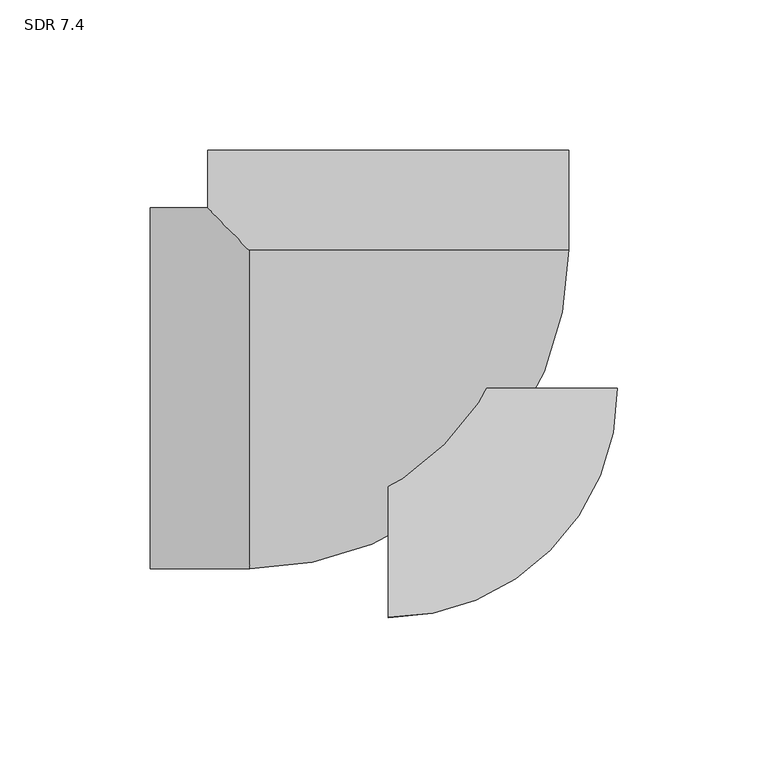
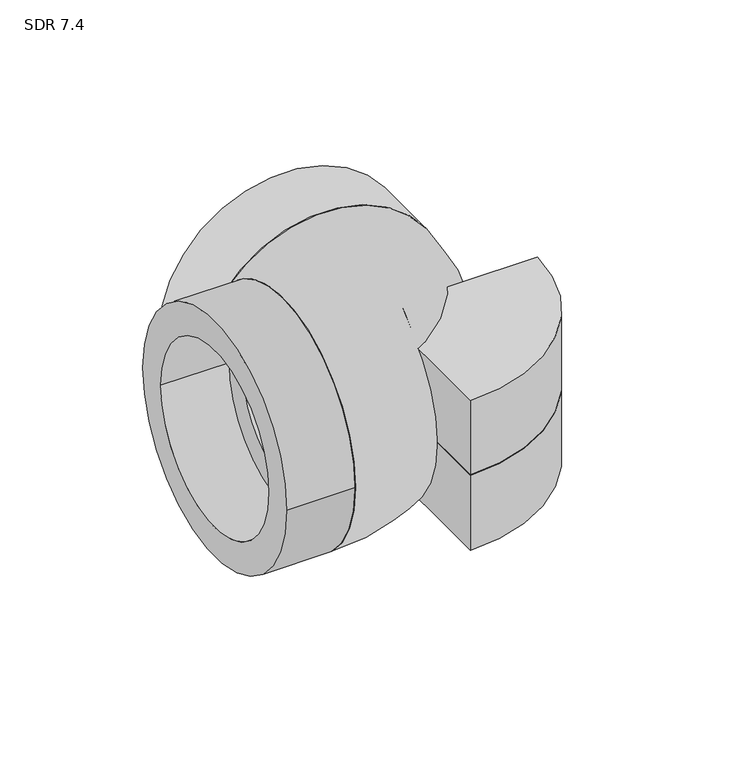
"""IFC4 building model written with IfcOpenShell, lengths in millimetres: pipe fitting geometry, Aquatherm - Elbow Socket : SDR 7.4."""

from ifc_helpers import new_model, si_unit, point, frame, origin, origin_with_axes, origin_2d, place, context, project, spatial, polyline, circle_curve, ellipse_curve, trimmed, segment, composite_curve, outline, extrude, source, transform, mapped, element, save
from ifc_brep_helpers import plane_surface, revolved_surface, advanced_brep


def sdr_7_4_47ab185f(model_context):
    return source(origin(), model_context, "Body", "SolidModel", [
        extrude(outline(composite_curve([segment(polyline([(0.0, -76.2), (0.0, 0.0), (76.2, 0.0)]), True, "CONTINUOUS"), segment(trimmed(circle_curve(origin_2d(), 76.2), [point((76.2, 0.0))], [point((0.0, -76.2))], False, "CARTESIAN"), True, "CONTINUOUS")], self_intersect=False)), frame((0.0, 0.0, -38.1), z_axis=(0.0, 0.0, 1.0), x_axis=(1.0, 0.0, 0.0)), (0.0, 0.0, 1.0), 38.1),
        extrude(outline(composite_curve([segment(trimmed(circle_curve(origin_2d(), 76.2), [point((76.2, 0.0))], [point((0.0, -76.2))], False, "CARTESIAN"), True, "CONTINUOUS"), segment(polyline([(0.0, -76.2), (0.0, 0.0), (76.2, 0.0)]), True, "CONTINUOUS")], self_intersect=False)), origin_with_axes(), (0.0, 0.0, 1.0), 38.1),
        extrude(outline(composite_curve([segment(trimmed(circle_curve(origin_2d(), 59.944), [point((0.0, 59.944))], [point((0.0, -59.944))], False, "CARTESIAN"), True, "CONTINUOUS"), segment(trimmed(circle_curve(origin_2d(), 59.944), [point((0.0, -59.944))], [point((0.0, 59.944))], False, "CARTESIAN"), True, "CONTINUOUS")], self_intersect=False), holes=[composite_curve([segment(trimmed(circle_curve(origin_2d(), 44.958), [point((0.0, 44.958))], [point((0.0, -44.958))], True, "CARTESIAN"), True, "CONTINUOUS"), segment(trimmed(circle_curve(origin_2d(), 44.958), [point((0.0, -44.958))], [point((0.0, 44.958))], True, "CARTESIAN"), True, "CONTINUOUS")], self_intersect=False)]), frame((0.0, 45.974, 0.0), z_axis=(0.0, 1.0, 0.0), x_axis=(0.0, 0.0, 1.0)), (0.0, 0.0, 1.0), 33.02),
        advanced_brep(
        [(-45.974, 45.974, -38.4665369), (-45.974, 45.974, 38.4665369), (-45.974, -32.4696667, 0.0), (-45.974, 32.4696667, 0.0), (32.4696667, 45.974, 0.0), (-32.4696667, 45.974, 0.0)],
        [
            (0, 1, circle_curve(frame((-45.974, 0.0, 0.0), z_axis=(-1.0, 0.0, 0.0), x_axis=(0.0, 1.0, 0.0)), 59.944)),
            (1, 0),
            (2, 3, circle_curve(frame((-45.974, 0.0, 0.0), z_axis=(1.0, 0.0, 0.0), x_axis=(0.0, 1.0, 0.0)), 32.4696667)),
            (3, 2, circle_curve(frame((-45.974, 0.0, 0.0), z_axis=(1.0, 0.0, 0.0), x_axis=(0.0, 1.0, 0.0)), 32.4696667)),
            (1, 0, circle_curve(frame((0.0, 45.974, 0.0), z_axis=(0.0, 1.0, 0.0), x_axis=(-1.0, 0.0, 0.0)), 59.944)),
            (4, 5, circle_curve(frame((0.0, 45.974, 0.0), z_axis=(0.0, -1.0, 0.0), x_axis=(-1.0, 0.0, 0.0)), 32.4696667)),
            (5, 4, circle_curve(frame((0.0, 45.974, 0.0), z_axis=(0.0, -1.0, 0.0), x_axis=(-1.0, 0.0, 0.0)), 32.4696667)),
            (5, 3, circle_curve(frame((-45.974, 45.974, 0.0), z_axis=(0.0, 0.0, -1.0), x_axis=(0.0, -1.0, 0.0)), 13.5043333)),
            (2, 4, circle_curve(frame((-45.974, 45.974, 0.0), z_axis=(0.0, 0.0, 1.0), x_axis=(0.0, -1.0, 0.0)), 78.4436667)),
        ],
        [
            plane_surface(frame((-45.974, 45.974, 95.6165369), z_axis=(-1.0, 0.0, 0.0), x_axis=(0.0, -1.0, 0.0))),
            plane_surface(frame((-45.974, 45.974, 95.6165369), z_axis=(0.0, 1.0, 0.0), x_axis=(1.0, 0.0, 0.0))),
            revolved_surface(trimmed(ellipse_curve(frame((-45.974, 0.0, 0.0), z_axis=(1.0, 0.0, 0.0), x_axis=(0.0, 1.0, 0.0)), 59.944, 59.944), [point((-45.974, 45.974, 38.4665369))], [point((-45.974, 45.974, -38.4665369))], True, "CARTESIAN"), (-45.974, 45.974, 95.6165369), (0.0, 0.0, -1.0)),
            revolved_surface(trimmed(ellipse_curve(frame((-45.974, 0.0, 0.0), z_axis=(-1.0, 0.0, 0.0), x_axis=(0.0, 1.0, 0.0)), 32.4696667, 32.4696667), [point((-45.974, 32.4696667, 0.0))], [point((-45.974, -32.4696667, 0.0))], True, "CARTESIAN"), (-45.974, 45.974, 95.6165369), (0.0, 0.0, -1.0)),
            revolved_surface(trimmed(ellipse_curve(frame((-45.974, 0.0, 0.0), z_axis=(-1.0, 0.0, 0.0), x_axis=(0.0, 1.0, 0.0)), 32.4696667, 32.4696667), [point((-45.974, -32.4696667, 0.0))], [point((-45.974, 32.4696667, 0.0))], True, "CARTESIAN"), (-45.974, 45.974, 95.6165369), (0.0, 0.0, -1.0)),
        ],
        [
            (0, [[1, 2], [3, 4]]),
            (1, [[5, -2], [6, 7]]),
            (2, [[-1, -5]]),
            (3, [[8, -3, 9, -7]]),
            (4, [[-9, -4, -8, -6]]),
        ],
    ),
        extrude(outline(composite_curve([segment(trimmed(circle_curve(origin_2d(), 59.944), [point((59.944, 0.0))], [point((-59.944, 0.0))], False, "CARTESIAN"), True, "CONTINUOUS"), segment(trimmed(circle_curve(origin_2d(), 59.944), [point((-59.944, 0.0))], [point((59.944, 0.0))], False, "CARTESIAN"), True, "CONTINUOUS")], self_intersect=False), holes=[composite_curve([segment(trimmed(circle_curve(origin_2d(), 44.958), [point((44.958, 0.0))], [point((-44.958, 0.0))], True, "CARTESIAN"), True, "CONTINUOUS"), segment(trimmed(circle_curve(origin_2d(), 44.958), [point((-44.958, 0.0))], [point((44.958, 0.0))], True, "CARTESIAN"), True, "CONTINUOUS")], self_intersect=False)]), frame((-78.994, 0.0, 0.0), z_axis=(1.0, 0.0, 0.0), x_axis=(0.0, 1.0, 0.0)), (0.0, 0.0, 1.0), 33.02),
    ])


if __name__ == "__main__":
    model = new_model("IFC4")
    model_context = context("Model", 3, world=origin())
    ifc_project = project(units=[si_unit("LENGTHUNIT", "METRE", prefix="MILLI")], contexts=[model_context])
    site = spatial("IfcSite", under=ifc_project)
    building = spatial("IfcBuilding", under=site)
    placement = place(None, origin())
    sdr_7_4_shape = sdr_7_4_47ab185f(model_context)
    element("IfcPipeFitting", 1, ObjectType="Aquatherm - Elbow Socket : SDR 7.4", at=placement, inside=building, context=model_context, shape_type="MappedRepresentation", body=[
        mapped(sdr_7_4_shape, transform((0.0, 0.0, 0.0), x_axis=(1.0, 0.0, 0.0), y_axis=(0.0, 1.0, 0.0), z_axis=(0.0, 0.0, 1.0))),
    ])
    save(model, "model.ifc")
